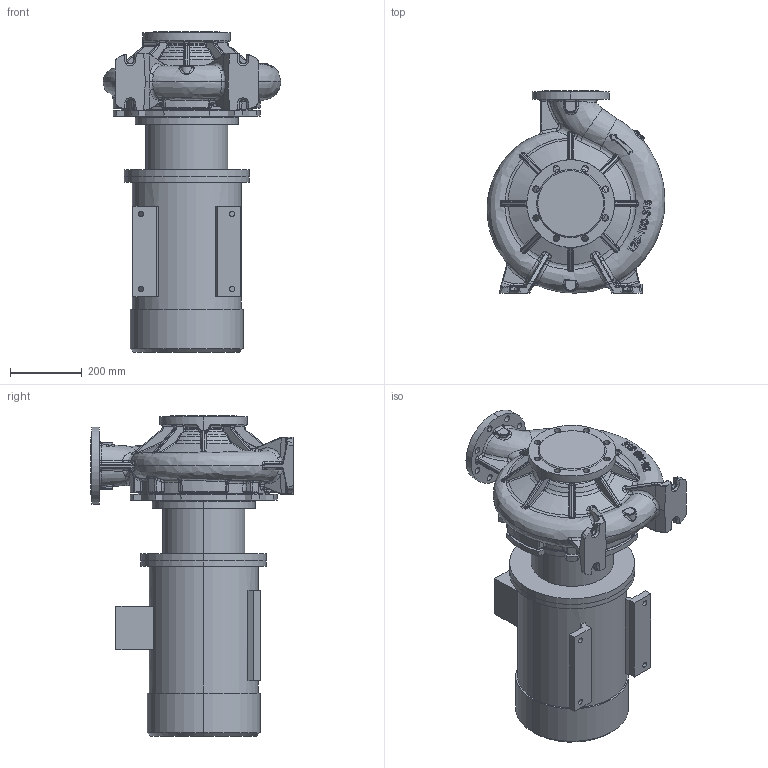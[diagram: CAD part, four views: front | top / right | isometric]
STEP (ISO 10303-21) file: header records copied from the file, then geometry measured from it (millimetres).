
FILE_DESCRIPTION (( 'STEP AP214' ), '1' );
FILE_NAME ('KRM 125-100-315-4-11.STEP', '2026-04-20T11:38:28', ( '' ), ( '' ), 'SwSTEP 2.0', 'SolidWorks 2016', '' );
FILE_SCHEMA (( 'AUTOMOTIVE_DESIGN' ));
Length unit declared in the file: millimetre
Products named in the file (1): KRM 125-100-315-4-11
Bounding box: 496.84 x 565 x 895.8 mm (x, y, z)
Volume: 77328425.2 mm3; surface area: 2402063.9 mm2
Topology: 12 solids, 12 shells, 1418 faces, 3411 edges, 2018 vertices
Faces by surface type: bspline 657, cylinder 284, plane 269, torus 98, cone 86, sphere 24
Entity records: 109834 total; most frequent: CARTESIAN_POINT 66367, ORIENTED_EDGE 6742, DIRECTION 4493, EDGE_CURVE 3371, VERTEX_POINT 2018, AXIS2_PLACEMENT_3D 1872, EDGE_LOOP 1499, UNCERTAINTY_MEASURE_WITH_UNIT 1432
